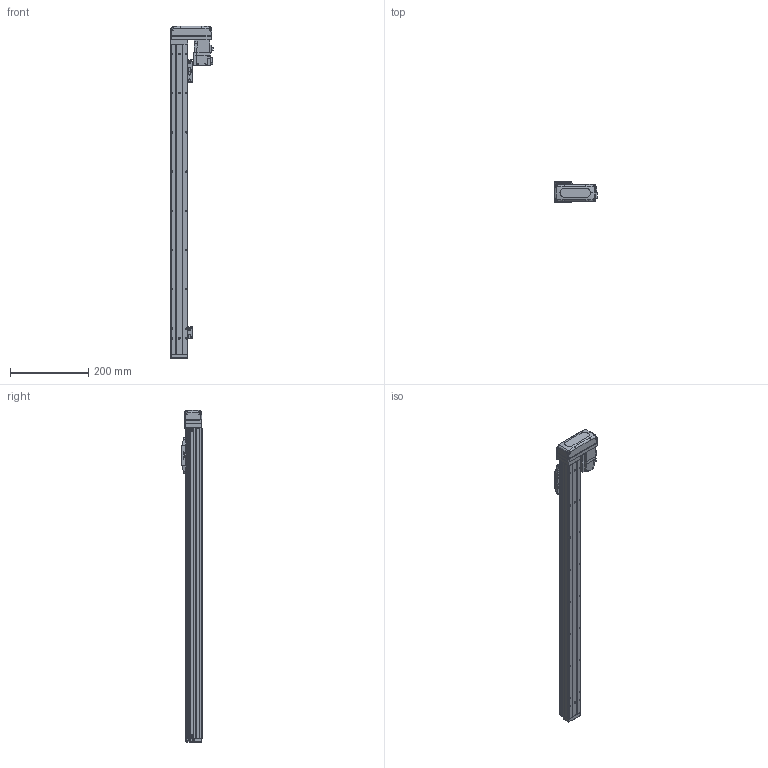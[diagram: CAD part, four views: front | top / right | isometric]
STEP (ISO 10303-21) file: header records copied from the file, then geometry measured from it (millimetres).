
FILE_DESCRIPTION (( 'STEP AP203' ), '1' );
FILE_NAME ('GTH4-650-BL-M05-C4.step', '2023-08-28T00:41:23', ( '微软用户' ), ( '微软中国' ), 'SwSTEP 2.0', 'SolidWorks 2020', '' );
FILE_SCHEMA (( 'CONFIG_CONTROL_DESIGN' ));
Length unit declared in the file: millimetre
Products named in the file (19): GBT70.1-2000 M3×16; GBT 70.1-M2.5×6; GTH4-650-BL-M05-C4; BTH50-028; BTH40-004; BTH50-023; BTH40-013; BTH40-001-50_BTH40-001-650; BTH50-024; HG-KR13; BTH40-003; GBT 70.1-M3℅6; GBT 70.3-M3℅6; BTH40-006; GBT96.1-2002 3×0.8; BTH40-027-1; BTH-M3X5X6; BTH40-022; BTH50-026
Assembly tree (47 placements, depth 2):
  GTH4-650-BL-M05-C4
    BTH40-001-50_BTH40-001-650
    BTH40-003
    BTH40-006
    BTH-M3X5X6  x8
    GBT70.1-2000 M3×16  x4
    BTH50-028  x2
    BTH50-023  x3
    BTH50-024  x3
    GBT 70.1-M3℅6  x6
    GBT96.1-2002 3×0.8  x6
    BTH40-022
    GBT 70.1-M2.5×6  x2
    BTH40-004
    BTH40-013
    HG-KR13
    GBT 70.3-M3℅6  x4
    BTH40-027-1
    BTH50-026
Bounding box: 108.8 x 52 x 846 mm (x, y, z)
Volume: 1499008.6 mm3; surface area: 257004.8 mm2
Topology: 49 solids, 49 shells, 1971 faces, 4643 edges, 2862 vertices
Faces by surface type: plane 1052, cylinder 503, cone 250, torus 128, bspline 34, sphere 4
Entity records: 39487 total; most frequent: CARTESIAN_POINT 7562, DIRECTION 6180, ORIENTED_EDGE 5932, EDGE_CURVE 2966, AXIS2_PLACEMENT_3D 2115, LINE 1950, VECTOR 1950, VERTEX_POINT 1849
